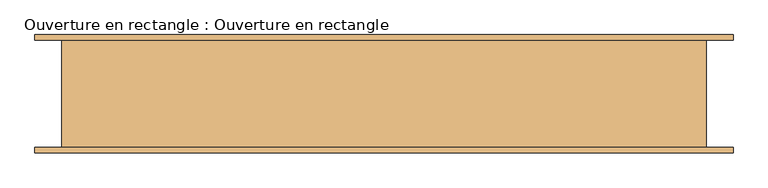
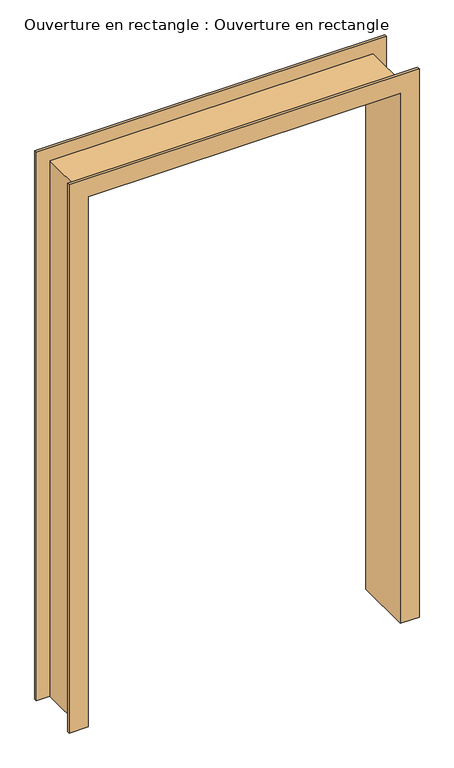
"""IFC4 building model written with IfcOpenShell, lengths in millimetres: door geometry, Ouverture en rectangle : Ouverture en rectangle."""

import ifcopenshell
import ifcopenshell.guid

model = None  # the IFC model being written
_history = None  # IfcOwnerHistory: only IFC2X3 demands one
_inside = {}  # id of a spatial element -> (the spatial element, [elements in it])
_under = {}  # id of a project, library or spatial element -> (it, [spatial elements below it])
_declared = {}  # id of a project -> (the project, [libraries it declares])
_typed = {}  # id of a type object -> (the type object, [elements of that type])
_made_of = {}  # id of a material, layer set ... -> (it, [elements and type objects made of it])


def new_model(schema):
    """Start an empty IFC model of exactly this schema.

    Asked for "IFC4X3", IfcOpenShell would pick the latest addendum, in which some entities
    have other attributes; the version numbers below select the first issue.
    IFC2X3 requires an IfcOwnerHistory on every rooted entity: one is made here for all.
    """
    global model, _history
    if schema == "IFC4X3":
        model = ifcopenshell.file(schema_version=(4, 3, 0, 0))
    else:
        model = ifcopenshell.file(schema=schema)
    _inside.clear()
    _under.clear()
    _declared.clear()
    _typed.clear()
    _made_of.clear()
    _history = None
    if model.schema == "IFC2X3":
        org = make("IfcOrganization", Name="unknown")
        user = make(
            "IfcPersonAndOrganization",
            ThePerson=make("IfcPerson", FamilyName="unknown"),
            TheOrganization=org,
        )
        app = make(
            "IfcApplication",
            ApplicationDeveloper=org,
            Version="unknown",
            ApplicationFullName="unknown",
            ApplicationIdentifier="unknown",
        )
        _history = make(
            "IfcOwnerHistory",
            OwningUser=user,
            OwningApplication=app,
            ChangeAction="ADDED",
            CreationDate=0,
        )
    return model


def make(cls, **values):
    """One entity of the class cls with the attributes given. An attribute that is None is left unset."""
    return model.create_entity(
        cls, **{name: value for name, value in values.items() if value is not None}
    )


def rooted(cls, **values):
    """An entity with a GlobalId (a new one), such as an element, a storey or a relation."""
    return make(cls, GlobalId=ifcopenshell.guid.new(), OwnerHistory=_history, **values)


def si_unit(unit_type, name, prefix=None):
    """IfcSIUnit, for example si_unit("LENGTHUNIT", "METRE", prefix="MILLI")."""
    return make("IfcSIUnit", UnitType=unit_type, Prefix=prefix, Name=name)


def assignment(units):
    """IfcUnitAssignment: the units of a project."""
    return None if units is None else make("IfcUnitAssignment", Units=units)


def point(xyz):
    """IfcCartesianPoint."""
    return None if xyz is None else make("IfcCartesianPoint", Coordinates=xyz)


def direction(xyz):
    """IfcDirection."""
    return None if xyz is None else make("IfcDirection", DirectionRatios=xyz)


def frame(location, z_axis=None, x_axis=None):
    """IfcAxis2Placement3D, a coordinate frame: its origin and axes. An axis left out is left unset."""
    return make(
        "IfcAxis2Placement3D",
        Location=point(location),
        Axis=direction(z_axis),
        RefDirection=direction(x_axis),
    )


def origin():
    """The frame at (0, 0, 0) with its axes left unset."""
    return frame((0.0, 0.0, 0.0))


def place(relative_to, where):
    """IfcLocalPlacement: puts the frame where relative to a parent placement (None: the world)."""
    return make(
        "IfcLocalPlacement", PlacementRelTo=relative_to, RelativePlacement=where
    )


def context(
    kind, dimensions, precision=None, world=None, true_north=None, identifier=None
):
    """IfcGeometricRepresentationContext, for example the 3D "Model" context."""
    return make(
        "IfcGeometricRepresentationContext",
        ContextIdentifier=identifier,
        ContextType=kind,
        CoordinateSpaceDimension=dimensions,
        Precision=precision,
        WorldCoordinateSystem=world,
        TrueNorth=true_north,
    )


def project(units=None, contexts=None):
    """IfcProject with its units and contexts."""
    return rooted(
        "IfcProject",
        Name="project",
        RepresentationContexts=contexts,
        UnitsInContext=assignment(units),
    )


def spatial(cls, under=None, at=None, **own):
    """A site, building, storey or space (cls), placed at a placement, below another one or the project."""
    s = rooted(cls, ObjectPlacement=at, **own)
    if under is not None:
        _under.setdefault(under.id(), (under, []))[1].append(s)
    return s


def faces_of(points, faces, orient=None, outer=None):
    """IfcFace entities. A face is a list of loops; a loop is a list of indices into points, from 0.

    orient and outer hold one flag for each loop. By default every Orientation is true, the
    first loop of a face is its IfcFaceOuterBound and the others are IfcFaceBound.
    """
    made = []
    for i, loops in enumerate(faces):
        bounds = []
        for j, loop in enumerate(loops):
            is_outer = j == 0 if outer is None else outer[i][j]
            bounds.append(
                make(
                    "IfcFaceOuterBound" if is_outer else "IfcFaceBound",
                    Bound=make("IfcPolyLoop", Polygon=[points[k] for k in loop]),
                    Orientation=True if orient is None else orient[i][j],
                )
            )
        made.append(make("IfcFace", Bounds=bounds))
    return made


def faceted_brep(points, faces, orient=None, outer=None, voids=None):
    """IfcFacetedBrep: a solid bounded by flat faces; with voids (closed shells), ...WithVoids."""
    shared = [point(p) for p in points]
    hull = make("IfcClosedShell", CfsFaces=faces_of(shared, faces, orient, outer))
    if voids is None:
        return make("IfcFacetedBrep", Outer=hull)
    return make(
        "IfcFacetedBrepWithVoids",
        Outer=hull,
        Voids=[
            make(cls, CfsFaces=faces_of(shared, fs, o, b)) for cls, fs, o, b in voids
        ],
    )


def shape(context_of_items, identifier, shape_type, items):
    """IfcShapeRepresentation: the items that make up one representation, for example the "Body"."""
    return make(
        "IfcShapeRepresentation",
        ContextOfItems=context_of_items,
        RepresentationIdentifier=identifier,
        RepresentationType=shape_type,
        Items=items,
    )


def source(mapping_origin, context_of_items, identifier, shape_type, items):
    """IfcRepresentationMap: a shape defined once, which mapped items show again and again."""
    return make(
        "IfcRepresentationMap",
        MappingOrigin=mapping_origin,
        MappedRepresentation=shape(context_of_items, identifier, shape_type, items),
    )


def transform(
    local_origin,
    x_axis=None,
    y_axis=None,
    z_axis=None,
    scale=None,
    scale2=None,
    scale3=None,
    uniform=True,
):
    """IfcCartesianTransformationOperator3D, or its non-uniform kind. x_axis, y_axis, z_axis: its Axis1, 2, 3."""
    if uniform:
        return make(
            "IfcCartesianTransformationOperator3D",
            Axis1=direction(x_axis),
            Axis2=direction(y_axis),
            LocalOrigin=point(local_origin),
            Scale=scale,
            Axis3=direction(z_axis),
        )
    return make(
        "IfcCartesianTransformationOperator3DnonUniform",
        Axis1=direction(x_axis),
        Axis2=direction(y_axis),
        LocalOrigin=point(local_origin),
        Scale=scale,
        Axis3=direction(z_axis),
        Scale2=scale2,
        Scale3=scale3,
    )


def mapped(mapping_source, mapping_target):
    """IfcMappedItem: shows the shape of a source again, moved by a transform."""
    return make(
        "IfcMappedItem", MappingSource=mapping_source, MappingTarget=mapping_target
    )


def made_of(thing, what):
    """Note that an element or type object is made of a material, layer set ...; save() writes the relation."""
    if what is not None:
        _made_of.setdefault(what.id(), (what, []))[1].append(thing)
    return thing


def element(
    cls,
    number,
    at=None,
    inside=None,
    cuts=None,
    type_object=None,
    material=None,
    context=None,
    identifier="Body",
    shape_type=None,
    held_by="IfcProductDefinitionShape",
    body=None,
    shapes=None,
    **own,
):
    """One element of the class cls, such as IfcWall. Its Tag is "e" and its number.

    at: its placement. inside: the storey or other place that contains it. cuts: it is an
    opening in that element (IfcRelVoidsElement). A single representation is given by context,
    identifier, shape_type and body (its items); several are given by shapes. held_by: the class
    of the entity that holds the representations. save() writes the other relations.
    """
    e = rooted(cls, Tag="e%d" % number, ObjectPlacement=at, **own)
    if body is not None:
        shapes = [shape(context, identifier, shape_type, body)]
    if shapes is not None:
        e.Representation = make(held_by, Representations=shapes)
    if inside is not None:
        _inside.setdefault(inside.id(), (inside, []))[1].append(e)
    if cuts is not None:
        rooted(
            "IfcRelVoidsElement", RelatingBuildingElement=cuts, RelatedOpeningElement=e
        )
    if type_object is not None:
        _typed.setdefault(type_object.id(), (type_object, []))[1].append(e)
    return made_of(e, material)


def aggregate(whole, parts):
    """IfcRelAggregates: a whole, such as a stair, and the parts it consists of."""
    return rooted("IfcRelAggregates", RelatingObject=whole, RelatedObjects=parts)


def save(model, path):
    """Write the relations noted so far, then the file.

    IfcRelAggregates (storeys below a building ...), IfcRelContainedInSpatialStructure (elements
    in a storey), IfcRelDefinesByType, IfcRelAssociatesMaterial and IfcRelDeclares: one each for
    every whole, place, type object, material and project.
    """
    for whole, parts in _under.values():
        aggregate(whole, parts)
    for where, things in _inside.values():
        rooted(
            "IfcRelContainedInSpatialStructure",
            RelatedElements=things,
            RelatingStructure=where,
        )
    for kind, things in _typed.values():
        rooted("IfcRelDefinesByType", RelatedObjects=things, RelatingType=kind)
    for what, things in _made_of.values():
        rooted("IfcRelAssociatesMaterial", RelatedObjects=things, RelatingMaterial=what)
    for by, libraries in _declared.values():
        rooted("IfcRelDeclares", RelatingContext=by, RelatedDefinitions=libraries)
    model.write(path)


def ouverture_en_rectangle_ouverture_en_rectangle_f633d446(model_context):
    return source(origin(), model_context, "Body", "Brep", [
        faceted_brep([(-600.0, -100.0, 0.0), (-600.0, 100.0, 0.0), (-650.0, 100.0, 0.0), (-650.0, 110.0, 0.0), (-580.0, 110.0, 0.0), (-580.0, -110.0, 0.0), (-650.0, -110.0, 0.0), (-650.0, -100.0, 0.0), (-600.0, -100.0, 2100.0), (-600.0, 100.0, 2100.0), (600.0, 100.0, 2100.0), (600.0, 100.0, 0.0), (650.0, 100.0, 0.0), (650.0, 100.0, 2150.0), (-650.0, 100.0, 2150.0), (-650.0, 110.0, 2150.0), (650.0, 110.0, 2150.0), (650.0, 110.0, 0.0), (580.0, 110.0, 0.0), (580.0, 110.0, 2080.0), (-580.0, 110.0, 2080.0), (-580.0, -110.0, 2080.0), (580.0, -110.0, 2080.0), (580.0, -110.0, 0.0), (650.0, -110.0, 0.0), (650.0, -110.0, 2150.0), (-650.0, -110.0, 2150.0), (-650.0, -100.0, 2150.0), (650.0, -100.0, 2150.0), (650.0, -100.0, 0.0), (600.0, -100.0, 0.0), (600.0, -100.0, 2100.0)], [[[0, 1, 2, 3, 4, 5, 6, 7]], [[1, 0, 8, 9]], [[2, 1, 9, 10, 11, 12, 13, 14]], [[3, 2, 14, 15]], [[4, 3, 15, 16, 17, 18, 19, 20]], [[5, 4, 20, 21]], [[6, 5, 21, 22, 23, 24, 25, 26]], [[7, 6, 26, 27]], [[0, 7, 27, 28, 29, 30, 31, 8]], [[10, 31, 30, 11]], [[30, 29, 24, 23, 18, 17, 12, 11]], [[16, 13, 12, 17]], [[22, 19, 18, 23]], [[28, 25, 24, 29]], [[9, 8, 31, 10]], [[15, 14, 13, 16]], [[21, 20, 19, 22]], [[27, 26, 25, 28]]]),
    ])


if __name__ == "__main__":
    model = new_model("IFC4")
    model_context = context("Model", 3, world=origin())
    ifc_project = project(units=[si_unit("LENGTHUNIT", "METRE", prefix="MILLI")], contexts=[model_context])
    site = spatial("IfcSite", under=ifc_project)
    building = spatial("IfcBuilding", under=site)
    placement = place(None, origin())
    ouverture_en_rectangle_ouverture_en_rectangle_shape = ouverture_en_rectangle_ouverture_en_rectangle_f633d446(model_context)
    element("IfcDoor", 1, ObjectType="Ouverture en rectangle : Ouverture en rectangle", at=placement, inside=building, context=model_context, shape_type="MappedRepresentation", body=[
        mapped(ouverture_en_rectangle_ouverture_en_rectangle_shape, transform((0.0, 0.0, 0.0), x_axis=(1.0, 0.0, 0.0), y_axis=(0.0, 1.0, 0.0), z_axis=(0.0, 0.0, 1.0))),
    ])
    save(model, "model.ifc")
